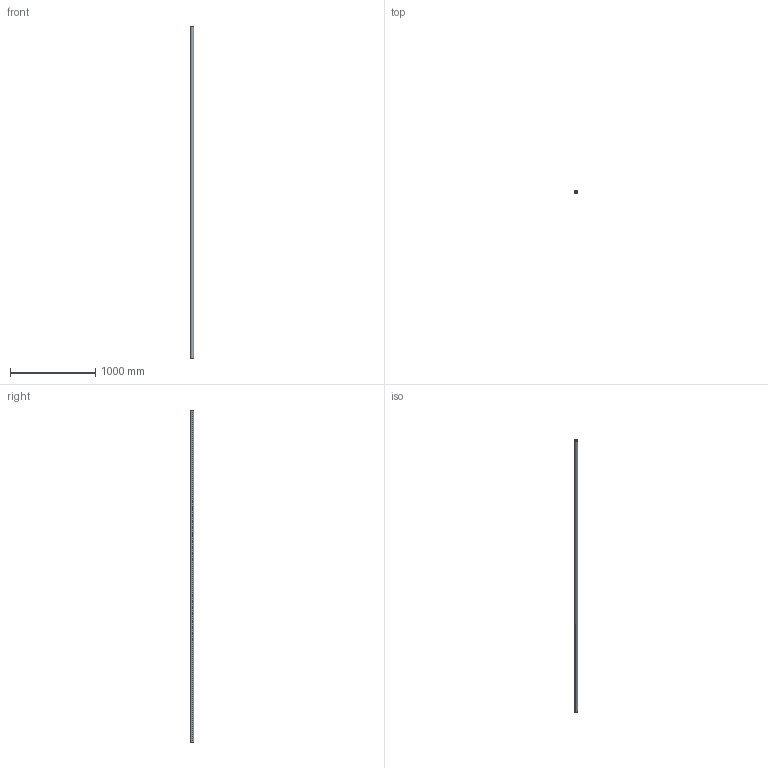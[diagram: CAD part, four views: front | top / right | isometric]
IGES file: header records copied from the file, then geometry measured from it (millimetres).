
Start section: SolidWorks IGES file using analytic representation for surfaces
Global section: file name: C:\Users\IanO\Desktop\L1771_v2\L1771.40_v2\L1771.40_v2_20230705_IGES\L1771.40-3900.igs; native system: SolidWorks 2019; preprocessor: SolidWorks 2019; author: IanO; date: 230705.162156; units: millimetre
Bounding box: 40 x 40 x 3900 mm (x, y, z)
Surface area: 834432.1 mm2 (no closed solid volume)
Topology: 0 solids, 0 shells, 6 faces, 272 edges, 272 vertices
Faces by surface type: revolution 4, bspline 2
